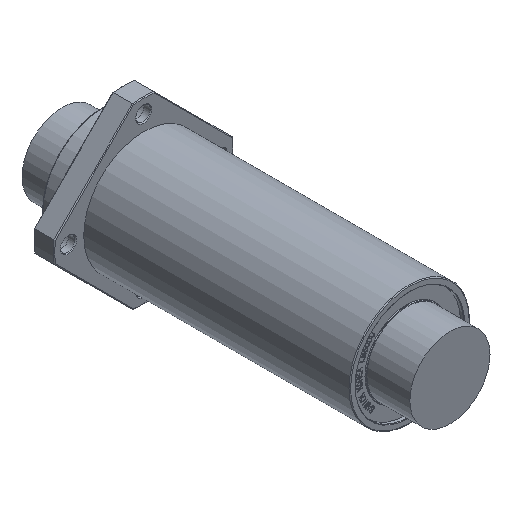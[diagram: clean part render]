
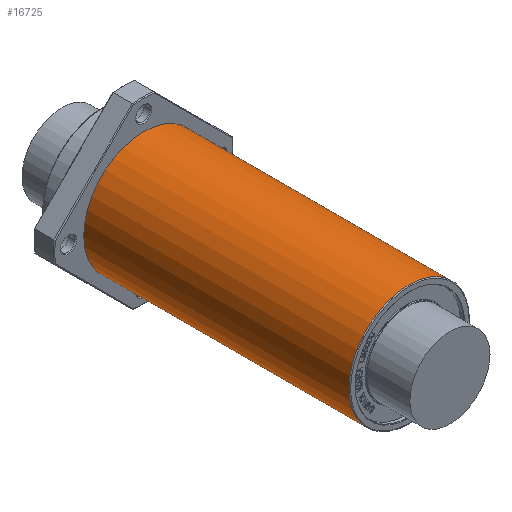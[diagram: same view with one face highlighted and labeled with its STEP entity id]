
A CAD part, isometric view. The second image highlights one B-rep face of the part: STEP entity #16725.
In plain terms, the highlighted cylindrical face has radius 37.5 mm (diameter 75 mm), a full revolution.
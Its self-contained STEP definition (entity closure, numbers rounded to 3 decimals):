
#2251=CYLINDRICAL_SURFACE('',#17103,37.5);
#3429=FACE_OUTER_BOUND('',#4371,.T.);
#4371=EDGE_LOOP('',(#15785,#15786,#15787,#15788,#15789,#15790,#15791));
#5537=LINE('',#30155,#6697);
#6697=VECTOR('',#18987,37.5);
#6723=CIRCLE('',#16780,37.5);
#6724=CIRCLE('',#16781,37.5);
#6779=CIRCLE('',#17104,37.5);
#6780=CIRCLE('',#17105,37.5);
#6781=CIRCLE('',#17106,37.5);
#6821=VERTEX_POINT('',#19094);
#6822=VERTEX_POINT('',#19095);
#8424=VERTEX_POINT('',#30150);
#8425=VERTEX_POINT('',#30151);
#8426=VERTEX_POINT('',#30153);
#8468=EDGE_CURVE('',#6821,#6822,#6723,.T.);
#8469=EDGE_CURVE('',#6822,#6821,#6724,.T.);
#10885=EDGE_CURVE('',#8424,#8425,#6779,.T.);
#10886=EDGE_CURVE('',#8426,#8424,#6780,.T.);
#10887=EDGE_CURVE('',#8426,#6822,#5537,.T.);
#10888=EDGE_CURVE('',#8425,#8426,#6781,.T.);
#15785=ORIENTED_EDGE('',*,*,#10885,.F.);
#15786=ORIENTED_EDGE('',*,*,#10886,.F.);
#15787=ORIENTED_EDGE('',*,*,#10887,.T.);
#15788=ORIENTED_EDGE('',*,*,#8469,.T.);
#15789=ORIENTED_EDGE('',*,*,#8468,.T.);
#15790=ORIENTED_EDGE('',*,*,#10887,.F.);
#15791=ORIENTED_EDGE('',*,*,#10888,.F.);
#16725=ADVANCED_FACE('',(#3429),#2251,.T.);
#16780=AXIS2_PLACEMENT_3D('',#19096,#17190,#17191);
#16781=AXIS2_PLACEMENT_3D('',#19097,#17192,#17193);
#17103=AXIS2_PLACEMENT_3D('',#30149,#18981,#18982);
#17104=AXIS2_PLACEMENT_3D('',#30152,#18983,#18984);
#17105=AXIS2_PLACEMENT_3D('',#30154,#18985,#18986);
#17106=AXIS2_PLACEMENT_3D('',#30156,#18988,#18989);
#17190=DIRECTION('center_axis',(0.,-1.,0.));
#17191=DIRECTION('ref_axis',(1.,0.,0.));
#17192=DIRECTION('center_axis',(0.,-1.,0.));
#17193=DIRECTION('ref_axis',(1.,0.,0.));
#18981=DIRECTION('center_axis',(0.,-1.,0.));
#18982=DIRECTION('ref_axis',(1.,0.,0.));
#18983=DIRECTION('center_axis',(0.,-1.,0.));
#18984=DIRECTION('ref_axis',(1.,0.,0.));
#18985=DIRECTION('center_axis',(0.,-1.,0.));
#18986=DIRECTION('ref_axis',(1.,0.,0.));
#18987=DIRECTION('',(0.,1.,0.));
#18988=DIRECTION('center_axis',(0.,-1.,0.));
#18989=DIRECTION('ref_axis',(1.,0.,0.));
#19094=CARTESIAN_POINT('',(37.5,70.,0.));
#19095=CARTESIAN_POINT('',(-37.5,70.,0.));
#19096=CARTESIAN_POINT('Origin',(0.,70.,0.));
#19097=CARTESIAN_POINT('Origin',(0.,70.,0.));
#30149=CARTESIAN_POINT('Origin',(0.,0.,0.));
#30150=CARTESIAN_POINT('',(37.5,-95.5,0.));
#30151=CARTESIAN_POINT('',(0.,-95.5,37.5));
#30152=CARTESIAN_POINT('Origin',(0.,-95.5,0.));
#30153=CARTESIAN_POINT('',(-37.5,-95.5,0.));
#30154=CARTESIAN_POINT('Origin',(0.,-95.5,0.));
#30155=CARTESIAN_POINT('',(-37.5,0.,0.));
#30156=CARTESIAN_POINT('Origin',(0.,-95.5,0.));
